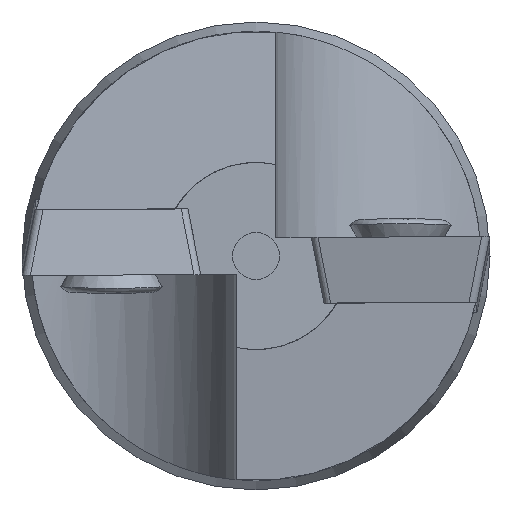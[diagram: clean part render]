
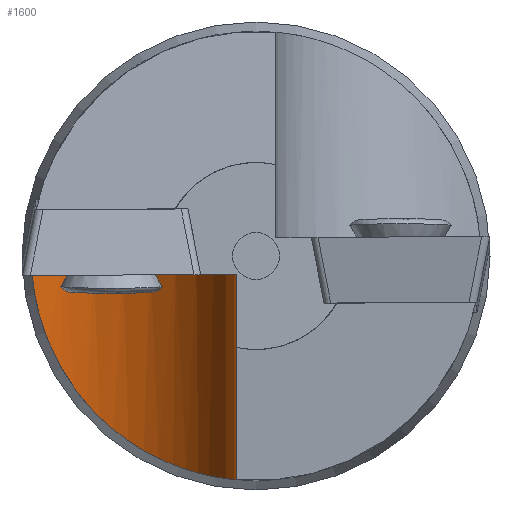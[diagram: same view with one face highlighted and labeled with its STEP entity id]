
A CAD part, left-side view. The second image highlights one B-rep face of the part: STEP entity #1600.
In plain terms, the highlighted cylindrical face has radius 10.025 mm (diameter 20.051 mm), a partial arc.
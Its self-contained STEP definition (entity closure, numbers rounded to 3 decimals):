
#66=B_SPLINE_CURVE_WITH_KNOTS('',3,(#2666,#2667,#2668,#2669,#2670,#2671,
#2672,#2673,#2674,#2675,#2676,#2677,#2678,#2679,#2680,#2681,#2682,#2683),
 .UNSPECIFIED.,.F.,.F.,(4,2,2,2,2,2,2,2,4),(3.357,3.686,
4.015,4.2,4.385,4.57,4.755,
5.177,5.597),.UNSPECIFIED.);
#171=LINE('',#2707,#255);
#255=VECTOR('',#2118,10.);
#359=FACE_OUTER_BOUND('',#460,.T.);
#460=EDGE_LOOP('',(#1193,#1194,#1195));
#541=CIRCLE('',#1770,10.025);
#655=VERTEX_POINT('',#2456);
#656=VERTEX_POINT('',#2458);
#703=VERTEX_POINT('',#2664);
#818=EDGE_CURVE('',#655,#656,#541,.T.);
#884=EDGE_CURVE('',#703,#655,#66,.T.);
#888=EDGE_CURVE('',#656,#703,#171,.T.);
#1193=ORIENTED_EDGE('',*,*,#884,.F.);
#1194=ORIENTED_EDGE('',*,*,#888,.F.);
#1195=ORIENTED_EDGE('',*,*,#818,.F.);
#1555=CYLINDRICAL_SURFACE('',#1823,10.025);
#1600=ADVANCED_FACE('',(#359),#1555,.F.);
#1770=AXIS2_PLACEMENT_3D('',#2459,#1979,#1980);
#1823=AXIS2_PLACEMENT_3D('',#2706,#2116,#2117);
#1979=DIRECTION('center_axis',(0.035,0.,
-0.999));
#1980=DIRECTION('ref_axis',(0.995,0.092,0.035));
#2116=DIRECTION('center_axis',(0.035,0.,
-0.999));
#2117=DIRECTION('ref_axis',(0.995,0.092,0.035));
#2118=DIRECTION('',(0.035,0.,-0.999));
#2456=CARTESIAN_POINT('',(-132.018,12.,-0.023));
#2458=CARTESIAN_POINT('',(-141.995,1.056,-0.371));
#2459=CARTESIAN_POINT('Origin',(-141.995,11.081,-0.371));
#2664=CARTESIAN_POINT('',(-141.59,1.056,-11.953));
#2666=CARTESIAN_POINT('Ctrl Pts',(-141.59,1.056,-11.953));
#2667=CARTESIAN_POINT('Ctrl Pts',(-140.494,1.056,-11.953));
#2668=CARTESIAN_POINT('Ctrl Pts',(-139.317,1.247,-11.942));
#2669=CARTESIAN_POINT('Ctrl Pts',(-137.115,2.035,-11.833));
#2670=CARTESIAN_POINT('Ctrl Pts',(-136.091,2.632,-11.729));
#2671=CARTESIAN_POINT('Ctrl Pts',(-134.791,3.702,-11.422));
#2672=CARTESIAN_POINT('Ctrl Pts',(-134.35,4.14,-11.275));
#2673=CARTESIAN_POINT('Ctrl Pts',(-133.57,5.078,-10.884));
#2674=CARTESIAN_POINT('Ctrl Pts',(-133.231,5.579,-10.64));
#2675=CARTESIAN_POINT('Ctrl Pts',(-132.672,6.585,-10.049));
#2676=CARTESIAN_POINT('Ctrl Pts',(-132.452,7.091,-9.7));
#2677=CARTESIAN_POINT('Ctrl Pts',(-132.119,8.055,-8.917));
#2678=CARTESIAN_POINT('Ctrl Pts',(-132.006,8.511,-8.482));
#2679=CARTESIAN_POINT('Ctrl Pts',(-131.762,9.855,-6.988));
#2680=CARTESIAN_POINT('Ctrl Pts',(-131.772,10.665,-5.701));
#2681=CARTESIAN_POINT('Ctrl Pts',(-131.881,11.734,-2.918));
#2682=CARTESIAN_POINT('Ctrl Pts',(-131.969,11.997,-1.423));
#2683=CARTESIAN_POINT('Ctrl Pts',(-132.018,12.,-0.023));
#2706=CARTESIAN_POINT('Origin',(-141.995,11.081,-0.371));
#2707=CARTESIAN_POINT('',(-141.995,1.056,-0.371));
